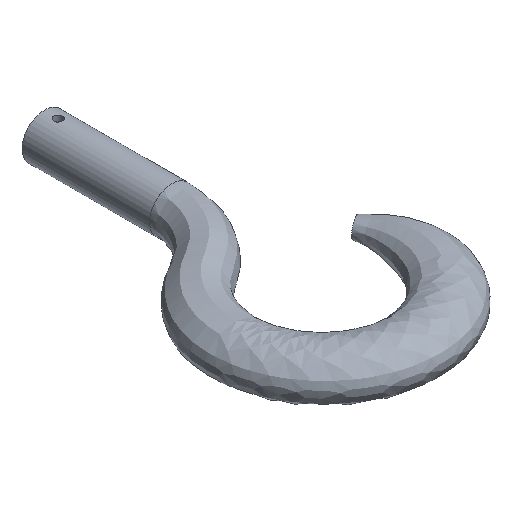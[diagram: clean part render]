
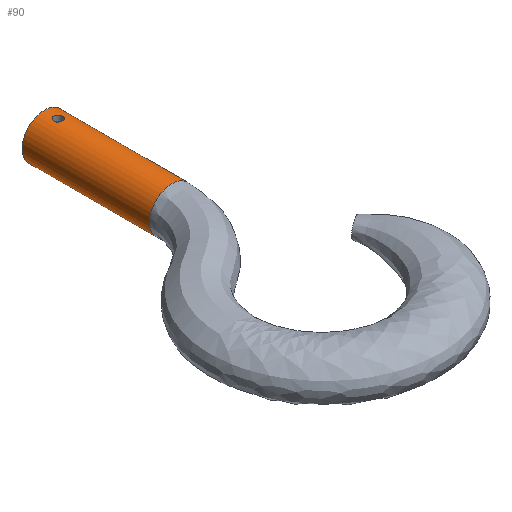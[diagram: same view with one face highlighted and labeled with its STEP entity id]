
A CAD part, isometric view. The second image highlights one B-rep face of the part: STEP entity #90.
In plain terms, the highlighted cylindrical face has radius 31.5 mm (diameter 63 mm), a full revolution.
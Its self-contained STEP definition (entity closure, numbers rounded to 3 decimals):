
#17=FACE_BOUND('',#34,.T.);
#18=FACE_BOUND('',#35,.T.);
#19=CIRCLE('',#109,31.5);
#20=CIRCLE('',#111,31.5);
#21=CIRCLE('',#112,31.5);
#22=CIRCLE('',#113,31.5);
#23=CIRCLE('',#114,31.5);
#28=FACE_OUTER_BOUND('',#33,.T.);
#33=EDGE_LOOP('',(#69,#70,#71,#72,#73,#74,#75));
#34=EDGE_LOOP('',(#76));
#35=EDGE_LOOP('',(#77));
#39=LINE('',#225,#41);
#41=VECTOR('',#134,31.5);
#42=B_SPLINE_CURVE_WITH_KNOTS('',3,(#144,#145,#146,#147,#148,#149,#150,
#151,#152,#153,#154,#155,#156,#157,#158,#159,#160,#161,#162,#163,#164,#165,
#166,#167,#168,#169,#170,#171,#172,#173,#174,#175,#176,#177),
 .UNSPECIFIED.,.T.,.F.,(4,2,2,2,2,2,2,2,2,2,2,2,2,2,2,2,4),(0.,0.227,
0.453,0.68,0.906,1.133,1.36,
1.586,1.813,2.039,2.266,2.493,
2.719,2.946,3.173,3.399,3.626),
 .UNSPECIFIED.);
#43=B_SPLINE_CURVE_WITH_KNOTS('',3,(#180,#181,#182,#183,#184,#185,#186,
#187,#188,#189,#190,#191,#192,#193,#194,#195,#196,#197,#198,#199,#200,#201,
#202,#203,#204,#205,#206,#207,#208,#209,#210,#211,#212,#213),
 .UNSPECIFIED.,.T.,.F.,(4,2,2,2,2,2,2,2,2,2,2,2,2,2,2,2,4),(0.,0.227,
0.453,0.68,0.906,1.133,1.36,
1.586,1.813,2.039,2.266,2.493,
2.719,2.946,3.173,3.399,3.626),
 .UNSPECIFIED.);
#45=VERTEX_POINT('',#143);
#46=VERTEX_POINT('',#178);
#47=VERTEX_POINT('',#215);
#48=VERTEX_POINT('',#218);
#49=VERTEX_POINT('',#219);
#50=VERTEX_POINT('',#221);
#51=VERTEX_POINT('',#223);
#53=EDGE_CURVE('',#45,#45,#42,.T.);
#55=EDGE_CURVE('',#46,#46,#43,.T.);
#56=EDGE_CURVE('',#47,#47,#19,.T.);
#57=EDGE_CURVE('',#48,#49,#20,.T.);
#58=EDGE_CURVE('',#50,#48,#21,.T.);
#59=EDGE_CURVE('',#51,#50,#22,.T.);
#60=EDGE_CURVE('',#51,#47,#39,.T.);
#61=EDGE_CURVE('',#49,#51,#23,.T.);
#69=ORIENTED_EDGE('',*,*,#57,.F.);
#70=ORIENTED_EDGE('',*,*,#58,.F.);
#71=ORIENTED_EDGE('',*,*,#59,.F.);
#72=ORIENTED_EDGE('',*,*,#60,.T.);
#73=ORIENTED_EDGE('',*,*,#56,.T.);
#74=ORIENTED_EDGE('',*,*,#60,.F.);
#75=ORIENTED_EDGE('',*,*,#61,.F.);
#76=ORIENTED_EDGE('',*,*,#55,.T.);
#77=ORIENTED_EDGE('',*,*,#53,.T.);
#87=CYLINDRICAL_SURFACE('',#110,31.5);
#90=ADVANCED_FACE('',(#28,#17,#18),#87,.T.);
#109=AXIS2_PLACEMENT_3D('',#216,#124,#125);
#110=AXIS2_PLACEMENT_3D('',#217,#126,#127);
#111=AXIS2_PLACEMENT_3D('',#220,#128,#129);
#112=AXIS2_PLACEMENT_3D('',#222,#130,#131);
#113=AXIS2_PLACEMENT_3D('',#224,#132,#133);
#114=AXIS2_PLACEMENT_3D('',#226,#135,#136);
#124=DIRECTION('center_axis',(0.,-1.,0.));
#125=DIRECTION('ref_axis',(1.,0.,0.));
#126=DIRECTION('center_axis',(0.,-1.,0.));
#127=DIRECTION('ref_axis',(1.,0.,0.));
#128=DIRECTION('center_axis',(0.,-1.,0.));
#129=DIRECTION('ref_axis',(-1.,0.,0.));
#130=DIRECTION('center_axis',(0.,-1.,0.));
#131=DIRECTION('ref_axis',(-1.,0.,0.));
#132=DIRECTION('center_axis',(0.,-1.,0.));
#133=DIRECTION('ref_axis',(-1.,0.,0.));
#134=DIRECTION('',(0.,1.,0.));
#135=DIRECTION('center_axis',(0.,-1.,0.));
#136=DIRECTION('ref_axis',(-1.,0.,0.));
#143=CARTESIAN_POINT('',(-6.,373.6,-30.923));
#144=CARTESIAN_POINT('Ctrl Pts',(-6.,373.6,-30.923));
#145=CARTESIAN_POINT('Ctrl Pts',(-6.,372.845,-30.923));
#146=CARTESIAN_POINT('Ctrl Pts',(-5.849,372.04,-30.954));
#147=CARTESIAN_POINT('Ctrl Pts',(-5.236,370.563,-31.063));
#148=CARTESIAN_POINT('Ctrl Pts',(-4.774,369.889,-31.141));
#149=CARTESIAN_POINT('Ctrl Pts',(-3.711,368.826,-31.285));
#150=CARTESIAN_POINT('Ctrl Pts',(-3.038,368.364,-31.362));
#151=CARTESIAN_POINT('Ctrl Pts',(-1.56,367.751,-31.47));
#152=CARTESIAN_POINT('Ctrl Pts',(-0.755,367.6,-31.5));
#153=CARTESIAN_POINT('Ctrl Pts',(0.755,367.6,-31.5));
#154=CARTESIAN_POINT('Ctrl Pts',(1.56,367.751,-31.47));
#155=CARTESIAN_POINT('Ctrl Pts',(3.038,368.364,-31.362));
#156=CARTESIAN_POINT('Ctrl Pts',(3.711,368.826,-31.285));
#157=CARTESIAN_POINT('Ctrl Pts',(4.774,369.889,-31.141));
#158=CARTESIAN_POINT('Ctrl Pts',(5.236,370.563,-31.063));
#159=CARTESIAN_POINT('Ctrl Pts',(5.849,372.04,-30.954));
#160=CARTESIAN_POINT('Ctrl Pts',(6.,372.845,-30.923));
#161=CARTESIAN_POINT('Ctrl Pts',(6.,374.355,-30.923));
#162=CARTESIAN_POINT('Ctrl Pts',(5.849,375.16,-30.954));
#163=CARTESIAN_POINT('Ctrl Pts',(5.236,376.638,-31.063));
#164=CARTESIAN_POINT('Ctrl Pts',(4.774,377.311,-31.141));
#165=CARTESIAN_POINT('Ctrl Pts',(3.711,378.374,-31.285));
#166=CARTESIAN_POINT('Ctrl Pts',(3.038,378.836,-31.362));
#167=CARTESIAN_POINT('Ctrl Pts',(1.56,379.449,-31.47));
#168=CARTESIAN_POINT('Ctrl Pts',(0.755,379.6,-31.5));
#169=CARTESIAN_POINT('Ctrl Pts',(-0.755,379.6,-31.5));
#170=CARTESIAN_POINT('Ctrl Pts',(-1.56,379.449,-31.47));
#171=CARTESIAN_POINT('Ctrl Pts',(-3.038,378.836,-31.362));
#172=CARTESIAN_POINT('Ctrl Pts',(-3.711,378.374,-31.285));
#173=CARTESIAN_POINT('Ctrl Pts',(-4.774,377.311,-31.141));
#174=CARTESIAN_POINT('Ctrl Pts',(-5.236,376.638,-31.063));
#175=CARTESIAN_POINT('Ctrl Pts',(-5.849,375.16,-30.954));
#176=CARTESIAN_POINT('Ctrl Pts',(-6.,374.355,-30.923));
#177=CARTESIAN_POINT('Ctrl Pts',(-6.,373.6,-30.923));
#178=CARTESIAN_POINT('',(-6.,373.6,30.923));
#180=CARTESIAN_POINT('Ctrl Pts',(-6.,373.6,30.923));
#181=CARTESIAN_POINT('Ctrl Pts',(-6.,374.355,30.923));
#182=CARTESIAN_POINT('Ctrl Pts',(-5.849,375.16,30.954));
#183=CARTESIAN_POINT('Ctrl Pts',(-5.236,376.638,31.063));
#184=CARTESIAN_POINT('Ctrl Pts',(-4.774,377.311,31.141));
#185=CARTESIAN_POINT('Ctrl Pts',(-3.711,378.374,31.285));
#186=CARTESIAN_POINT('Ctrl Pts',(-3.038,378.836,31.362));
#187=CARTESIAN_POINT('Ctrl Pts',(-1.56,379.449,31.47));
#188=CARTESIAN_POINT('Ctrl Pts',(-0.755,379.6,31.5));
#189=CARTESIAN_POINT('Ctrl Pts',(0.755,379.6,31.5));
#190=CARTESIAN_POINT('Ctrl Pts',(1.56,379.449,31.47));
#191=CARTESIAN_POINT('Ctrl Pts',(3.038,378.836,31.362));
#192=CARTESIAN_POINT('Ctrl Pts',(3.711,378.374,31.285));
#193=CARTESIAN_POINT('Ctrl Pts',(4.774,377.311,31.141));
#194=CARTESIAN_POINT('Ctrl Pts',(5.236,376.638,31.063));
#195=CARTESIAN_POINT('Ctrl Pts',(5.849,375.16,30.954));
#196=CARTESIAN_POINT('Ctrl Pts',(6.,374.355,30.923));
#197=CARTESIAN_POINT('Ctrl Pts',(6.,372.845,30.923));
#198=CARTESIAN_POINT('Ctrl Pts',(5.849,372.04,30.954));
#199=CARTESIAN_POINT('Ctrl Pts',(5.236,370.563,31.063));
#200=CARTESIAN_POINT('Ctrl Pts',(4.774,369.889,31.141));
#201=CARTESIAN_POINT('Ctrl Pts',(3.711,368.826,31.285));
#202=CARTESIAN_POINT('Ctrl Pts',(3.038,368.364,31.362));
#203=CARTESIAN_POINT('Ctrl Pts',(1.56,367.751,31.47));
#204=CARTESIAN_POINT('Ctrl Pts',(0.755,367.6,31.5));
#205=CARTESIAN_POINT('Ctrl Pts',(-0.755,367.6,31.5));
#206=CARTESIAN_POINT('Ctrl Pts',(-1.56,367.751,31.47));
#207=CARTESIAN_POINT('Ctrl Pts',(-3.038,368.364,31.362));
#208=CARTESIAN_POINT('Ctrl Pts',(-3.711,368.826,31.285));
#209=CARTESIAN_POINT('Ctrl Pts',(-4.774,369.889,31.141));
#210=CARTESIAN_POINT('Ctrl Pts',(-5.236,370.563,31.063));
#211=CARTESIAN_POINT('Ctrl Pts',(-5.849,372.04,30.954));
#212=CARTESIAN_POINT('Ctrl Pts',(-6.,372.845,30.923));
#213=CARTESIAN_POINT('Ctrl Pts',(-6.,373.6,30.923));
#215=CARTESIAN_POINT('',(-31.5,393.6,0.));
#216=CARTESIAN_POINT('Origin',(0.,393.6,0.));
#217=CARTESIAN_POINT('Origin',(0.,303.6,0.));
#218=CARTESIAN_POINT('',(31.5,213.6,0.));
#219=CARTESIAN_POINT('',(0.,213.6,31.5));
#220=CARTESIAN_POINT('Origin',(0.,213.6,0.));
#221=CARTESIAN_POINT('',(0.,213.6,-31.5));
#222=CARTESIAN_POINT('Origin',(0.,213.6,0.));
#223=CARTESIAN_POINT('',(-31.5,213.6,0.));
#224=CARTESIAN_POINT('Origin',(0.,213.6,0.));
#225=CARTESIAN_POINT('',(-31.5,303.6,0.));
#226=CARTESIAN_POINT('Origin',(0.,213.6,0.));
